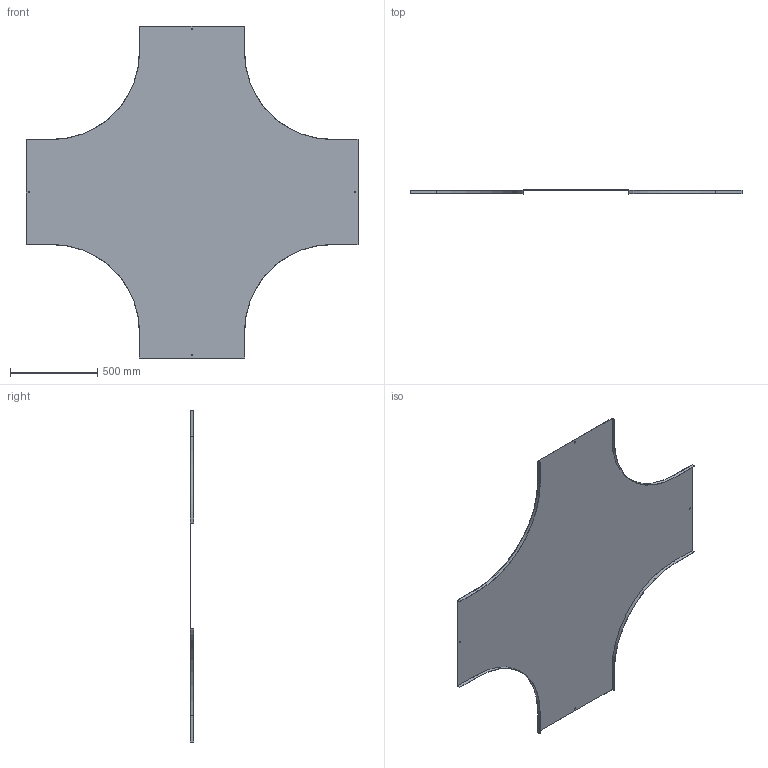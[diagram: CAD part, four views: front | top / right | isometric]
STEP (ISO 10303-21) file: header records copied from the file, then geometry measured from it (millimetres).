
FILE_DESCRIPTION (( 'STEP AP214' ), '1' );
FILE_NAME ('17N5R600.step', '2025-02-21T14:39:24', ( '' ), ( '' ), 'SwSTEP 2.0', 'SolidWorks 2023', '' );
FILE_SCHEMA (( 'AUTOMOTIVE_DESIGN' ));
Length unit declared in the file: millimetre
Products named in the file (1): 17N5R600
Bounding box: 1900 x 20 x 1900 mm (x, y, z)
Volume: 3331658.2 mm3; surface area: 4452735.1 mm2
Topology: 1 solids, 1 shells, 50 faces, 144 edges, 96 vertices
Faces by surface type: plane 42, cylinder 8
Entity records: 1663 total; most frequent: CARTESIAN_POINT 291, ORIENTED_EDGE 288, DIRECTION 262, EDGE_CURVE 144, LINE 128, VECTOR 128, VERTEX_POINT 96, AXIS2_PLACEMENT_3D 67
